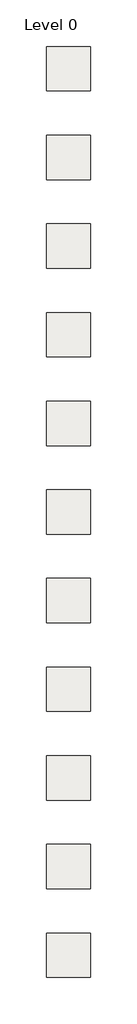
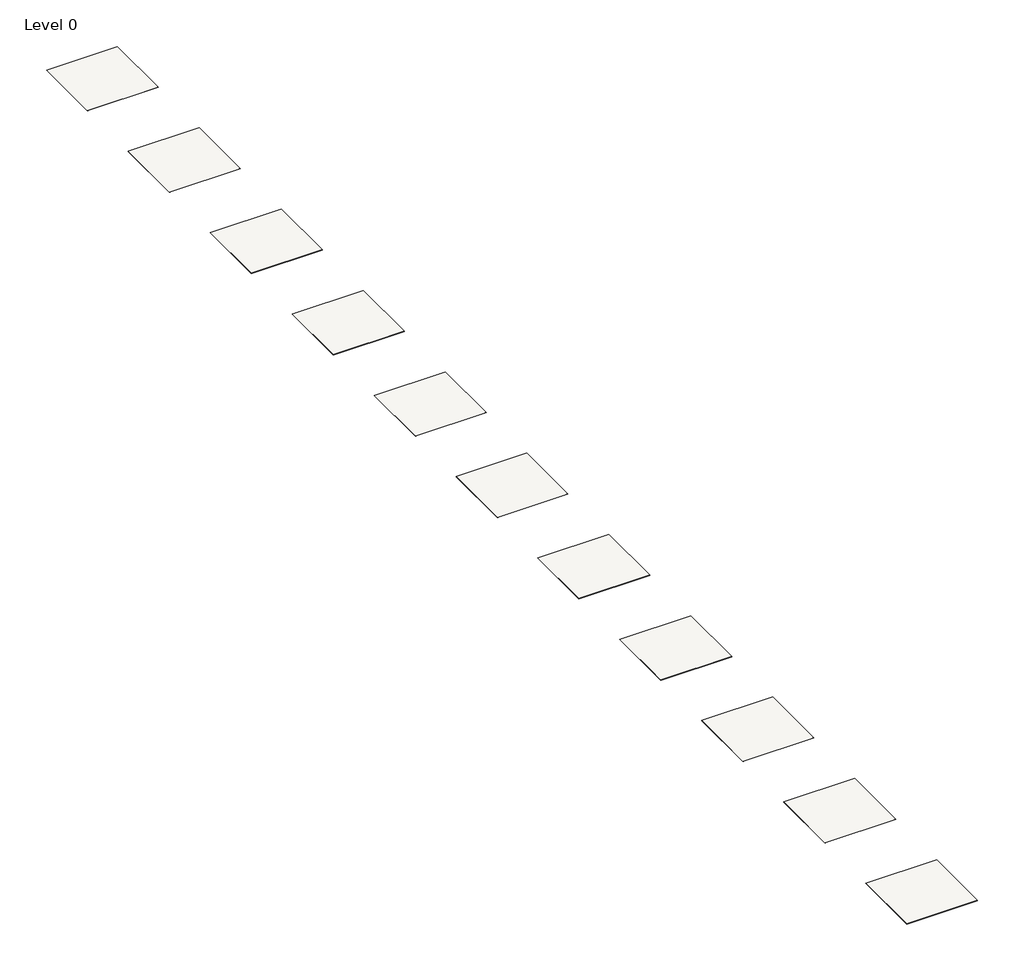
# One storey: 11 coverings.
"""IFC4 building model written with IfcOpenShell, lengths in millimetres."""

import ifcopenshell
import ifcopenshell.guid

model = None  # the IFC model being written
_history = None  # IfcOwnerHistory: only IFC2X3 demands one
_inside = {}  # id of a spatial element -> (the spatial element, [elements in it])
_under = {}  # id of a project, library or spatial element -> (it, [spatial elements below it])
_declared = {}  # id of a project -> (the project, [libraries it declares])
_typed = {}  # id of a type object -> (the type object, [elements of that type])
_made_of = {}  # id of a material, layer set ... -> (it, [elements and type objects made of it])


def new_model(schema):
    """Start an empty IFC model of exactly this schema.

    Asked for "IFC4X3", IfcOpenShell would pick the latest addendum, in which some entities
    have other attributes; the version numbers below select the first issue.
    IFC2X3 requires an IfcOwnerHistory on every rooted entity: one is made here for all.
    """
    global model, _history
    if schema == "IFC4X3":
        model = ifcopenshell.file(schema_version=(4, 3, 0, 0))
    else:
        model = ifcopenshell.file(schema=schema)
    _inside.clear()
    _under.clear()
    _declared.clear()
    _typed.clear()
    _made_of.clear()
    _history = None
    if model.schema == "IFC2X3":
        org = make("IfcOrganization", Name="unknown")
        user = make(
            "IfcPersonAndOrganization",
            ThePerson=make("IfcPerson", FamilyName="unknown"),
            TheOrganization=org,
        )
        app = make(
            "IfcApplication",
            ApplicationDeveloper=org,
            Version="unknown",
            ApplicationFullName="unknown",
            ApplicationIdentifier="unknown",
        )
        _history = make(
            "IfcOwnerHistory",
            OwningUser=user,
            OwningApplication=app,
            ChangeAction="ADDED",
            CreationDate=0,
        )
    return model


def make(cls, **values):
    """One entity of the class cls with the attributes given. An attribute that is None is left unset."""
    return model.create_entity(
        cls, **{name: value for name, value in values.items() if value is not None}
    )


def rooted(cls, **values):
    """An entity with a GlobalId (a new one), such as an element, a storey or a relation."""
    return make(cls, GlobalId=ifcopenshell.guid.new(), OwnerHistory=_history, **values)


def si_unit(unit_type, name, prefix=None):
    """IfcSIUnit, for example si_unit("LENGTHUNIT", "METRE", prefix="MILLI")."""
    return make("IfcSIUnit", UnitType=unit_type, Prefix=prefix, Name=name)


def assignment(units):
    """IfcUnitAssignment: the units of a project."""
    return None if units is None else make("IfcUnitAssignment", Units=units)


def point(xyz):
    """IfcCartesianPoint."""
    return None if xyz is None else make("IfcCartesianPoint", Coordinates=xyz)


def direction(xyz):
    """IfcDirection."""
    return None if xyz is None else make("IfcDirection", DirectionRatios=xyz)


def frame(location, z_axis=None, x_axis=None):
    """IfcAxis2Placement3D, a coordinate frame: its origin and axes. An axis left out is left unset."""
    return make(
        "IfcAxis2Placement3D",
        Location=point(location),
        Axis=direction(z_axis),
        RefDirection=direction(x_axis),
    )


def origin():
    """The frame at (0, 0, 0) with its axes left unset."""
    return frame((0.0, 0.0, 0.0))


def place(relative_to, where):
    """IfcLocalPlacement: puts the frame where relative to a parent placement (None: the world)."""
    return make(
        "IfcLocalPlacement", PlacementRelTo=relative_to, RelativePlacement=where
    )


def context(
    kind, dimensions, precision=None, world=None, true_north=None, identifier=None
):
    """IfcGeometricRepresentationContext, for example the 3D "Model" context."""
    return make(
        "IfcGeometricRepresentationContext",
        ContextIdentifier=identifier,
        ContextType=kind,
        CoordinateSpaceDimension=dimensions,
        Precision=precision,
        WorldCoordinateSystem=world,
        TrueNorth=true_north,
    )


def project(units=None, contexts=None):
    """IfcProject with its units and contexts."""
    return rooted(
        "IfcProject",
        Name="project",
        RepresentationContexts=contexts,
        UnitsInContext=assignment(units),
    )


def spatial(cls, under=None, at=None, **own):
    """A site, building, storey or space (cls), placed at a placement, below another one or the project."""
    s = rooted(cls, ObjectPlacement=at, **own)
    if under is not None:
        _under.setdefault(under.id(), (under, []))[1].append(s)
    return s


def polyline(points):
    """IfcPolyline through the points."""
    return make("IfcPolyline", Points=[point(p) for p in points])


def outline(outer, holes=None, kind="AREA"):
    """IfcArbitraryClosedProfileDef: a profile drawn as a closed curve; with holes, ...WithVoids."""
    if holes is None:
        return make("IfcArbitraryClosedProfileDef", ProfileType=kind, OuterCurve=outer)
    return make(
        "IfcArbitraryProfileDefWithVoids",
        ProfileType=kind,
        OuterCurve=outer,
        InnerCurves=holes,
    )


def extrude(swept, where, along, depth):
    """IfcExtrudedAreaSolid: the profile swept, set in the frame where, extruded along a direction by depth."""
    return make(
        "IfcExtrudedAreaSolid",
        SweptArea=swept,
        Position=where,
        ExtrudedDirection=direction(along),
        Depth=depth,
    )


def shape(context_of_items, identifier, shape_type, items):
    """IfcShapeRepresentation: the items that make up one representation, for example the "Body"."""
    return make(
        "IfcShapeRepresentation",
        ContextOfItems=context_of_items,
        RepresentationIdentifier=identifier,
        RepresentationType=shape_type,
        Items=items,
    )


def made_of(thing, what):
    """Note that an element or type object is made of a material, layer set ...; save() writes the relation."""
    if what is not None:
        _made_of.setdefault(what.id(), (what, []))[1].append(thing)
    return thing


def element(
    cls,
    number,
    at=None,
    inside=None,
    cuts=None,
    type_object=None,
    material=None,
    context=None,
    identifier="Body",
    shape_type=None,
    held_by="IfcProductDefinitionShape",
    body=None,
    shapes=None,
    **own,
):
    """One element of the class cls, such as IfcWall. Its Tag is "e" and its number.

    at: its placement. inside: the storey or other place that contains it. cuts: it is an
    opening in that element (IfcRelVoidsElement). A single representation is given by context,
    identifier, shape_type and body (its items); several are given by shapes. held_by: the class
    of the entity that holds the representations. save() writes the other relations.
    """
    e = rooted(cls, Tag="e%d" % number, ObjectPlacement=at, **own)
    if body is not None:
        shapes = [shape(context, identifier, shape_type, body)]
    if shapes is not None:
        e.Representation = make(held_by, Representations=shapes)
    if inside is not None:
        _inside.setdefault(inside.id(), (inside, []))[1].append(e)
    if cuts is not None:
        rooted(
            "IfcRelVoidsElement", RelatingBuildingElement=cuts, RelatedOpeningElement=e
        )
    if type_object is not None:
        _typed.setdefault(type_object.id(), (type_object, []))[1].append(e)
    return made_of(e, material)


def aggregate(whole, parts):
    """IfcRelAggregates: a whole, such as a stair, and the parts it consists of."""
    return rooted("IfcRelAggregates", RelatingObject=whole, RelatedObjects=parts)


def save(model, path):
    """Write the relations noted so far, then the file.

    IfcRelAggregates (storeys below a building ...), IfcRelContainedInSpatialStructure (elements
    in a storey), IfcRelDefinesByType, IfcRelAssociatesMaterial and IfcRelDeclares: one each for
    every whole, place, type object, material and project.
    """
    for whole, parts in _under.values():
        aggregate(whole, parts)
    for where, things in _inside.values():
        rooted(
            "IfcRelContainedInSpatialStructure",
            RelatedElements=things,
            RelatingStructure=where,
        )
    for kind, things in _typed.values():
        rooted("IfcRelDefinesByType", RelatedObjects=things, RelatingType=kind)
    for what, things in _made_of.values():
        rooted("IfcRelAssociatesMaterial", RelatedObjects=things, RelatingMaterial=what)
    for by, libraries in _declared.values():
        rooted("IfcRelDeclares", RelatingContext=by, RelatedDefinitions=libraries)
    model.write(path)


model = new_model("IFC4")

# Units and contexts
model_context = context("Model", 3, world=origin())
ifc_project = project(units=[si_unit("LENGTHUNIT", "METRE", prefix="MILLI")], contexts=[model_context])

# Site, building, storey
site = spatial("IfcSite", under=ifc_project)
building = spatial("IfcBuilding", under=site)
storey = spatial("IfcBuildingStorey", under=building, Name="Level 0", Elevation=0.0)

# Coverings
placement = place(None, origin())
element("IfcCovering", 1, ObjectType="Archify_ECCarpets_Carpets_Avenue_Ashbourne1152", at=placement, inside=storey, context=model_context, shape_type="SweptSolid", body=[
    extrude(outline(polyline([(2500.0, 0.0), (2500.0, -2500.0), (0.0, -2500.0), (0.0, 0.0), (2500.0, 0.0)])), frame((0.0, 0.0, -8.0), z_axis=(0.0, 0.0, 1.0), x_axis=(1.0, 0.0, 0.0)), (0.0, 0.0, 1.0), 8.0),
])
element("IfcCovering", 2, ObjectType="Archify_ECCarpets_Carpets_Avenue_Bevington1155", at=placement, inside=storey, context=model_context, shape_type="SweptSolid", body=[
    extrude(outline(polyline([(2500.0, -5000.0), (2500.0, -7500.0), (0.0, -7500.0), (0.0, -5000.0), (2500.0, -5000.0)])), frame((0.0, 0.0, -8.0), z_axis=(0.0, 0.0, 1.0), x_axis=(1.0, 0.0, 0.0)), (0.0, 0.0, 1.0), 8.0),
])
element("IfcCovering", 3, ObjectType="Archify_ECCarpets_Carpets_Avenue_CCAAnnesley1157", at=placement, inside=storey, context=model_context, shape_type="SweptSolid", body=[
    extrude(outline(polyline([(2500.0, -10000.0), (2500.0, -12500.0), (0.0, -12500.0), (0.0, -10000.0), (2500.0, -10000.0)])), frame((0.0, 0.0, -8.0), z_axis=(0.0, 0.0, 1.0), x_axis=(1.0, 0.0, 0.0)), (0.0, 0.0, 1.0), 8.0),
])
element("IfcCovering", 4, ObjectType="Archify_ECCarpets_Carpets_Avenue_Cudmore1154", at=placement, inside=storey, context=model_context, shape_type="SweptSolid", body=[
    extrude(outline(polyline([(2500.0, -15000.0), (2500.0, -17500.0), (0.0, -17500.0), (0.0, -15000.0), (2500.0, -15000.0)])), frame((0.0, 0.0, -8.0), z_axis=(0.0, 0.0, 1.0), x_axis=(1.0, 0.0, 0.0)), (0.0, 0.0, 1.0), 8.0),
])
element("IfcCovering", 5, ObjectType="Archify_ECCarpets_Carpets_Avenue_Martindale1145", at=placement, inside=storey, context=model_context, shape_type="SweptSolid", body=[
    extrude(outline(polyline([(2500.0, -20000.0), (2500.0, -22500.0), (0.0, -22500.0), (0.0, -20000.0), (2500.0, -20000.0)])), frame((0.0, 0.0, -8.0), z_axis=(0.0, 0.0, 1.0), x_axis=(1.0, 0.0, 0.0)), (0.0, 0.0, 1.0), 8.0),
])
element("IfcCovering", 6, ObjectType="Archify_ECCarpets_Carpets_Avenue_Milton1149", at=placement, inside=storey, context=model_context, shape_type="SweptSolid", body=[
    extrude(outline(polyline([(2500.0, -25000.0), (2500.0, -27500.0), (0.0, -27500.0), (0.0, -25000.0), (2500.0, -25000.0)])), frame((0.0, 0.0, -8.0), z_axis=(0.0, 0.0, 1.0), x_axis=(1.0, 0.0, 0.0)), (0.0, 0.0, 1.0), 8.0),
])
element("IfcCovering", 7, ObjectType="Archify_ECCarpets_Carpets_Avenue_Moorhouse1156", at=placement, inside=storey, context=model_context, shape_type="SweptSolid", body=[
    extrude(outline(polyline([(2500.0, -30000.0), (2500.0, -32500.0), (0.0, -32500.0), (0.0, -30000.0), (2500.0, -30000.0)])), frame((0.0, 0.0, -8.0), z_axis=(0.0, 0.0, 1.0), x_axis=(1.0, 0.0, 0.0)), (0.0, 0.0, 1.0), 8.0),
])
element("IfcCovering", 8, ObjectType="Archify_ECCarpets_Carpets_Avenue_Morland1148", at=placement, inside=storey, context=model_context, shape_type="SweptSolid", body=[
    extrude(outline(polyline([(2500.0, -35000.0), (2500.0, -37500.0), (0.0, -37500.0), (0.0, -35000.0), (2500.0, -35000.0)])), frame((0.0, 0.0, -8.0), z_axis=(0.0, 0.0, 1.0), x_axis=(1.0, 0.0, 0.0)), (0.0, 0.0, 1.0), 8.0),
])
element("IfcCovering", 9, ObjectType="Archify_ECCarpets_Carpets_Avenue_Rayne1150", at=placement, inside=storey, context=model_context, shape_type="SweptSolid", body=[
    extrude(outline(polyline([(2500.0, -40000.0), (2500.0, -42500.0), (0.0, -42500.0), (0.0, -40000.0), (2500.0, -40000.0)])), frame((0.0, 0.0, -8.0), z_axis=(0.0, 0.0, 1.0), x_axis=(1.0, 0.0, 0.0)), (0.0, 0.0, 1.0), 8.0),
])
element("IfcCovering", 10, ObjectType="Archify_ECCarpets_Carpets_Avenue_Rothbury1153", at=placement, inside=storey, context=model_context, shape_type="SweptSolid", body=[
    extrude(outline(polyline([(2500.0, -45000.0), (2500.0, -47500.0), (0.0, -47500.0), (0.0, -45000.0), (2500.0, -45000.0)])), frame((0.0, 0.0, -8.0), z_axis=(0.0, 0.0, 1.0), x_axis=(1.0, 0.0, 0.0)), (0.0, 0.0, 1.0), 8.0),
])
element("IfcCovering", 11, ObjectType="Archify_ECCarpets_Carpets_Avenue_Sherwood1151", at=placement, inside=storey, context=model_context, shape_type="SweptSolid", body=[
    extrude(outline(polyline([(2500.0, -50000.0), (2500.0, -52500.0), (0.0, -52500.0), (0.0, -50000.0), (2500.0, -50000.0)])), frame((0.0, 0.0, -8.0), z_axis=(0.0, 0.0, 1.0), x_axis=(1.0, 0.0, 0.0)), (0.0, 0.0, 1.0), 8.0),
])

save(model, "model.ifc")
